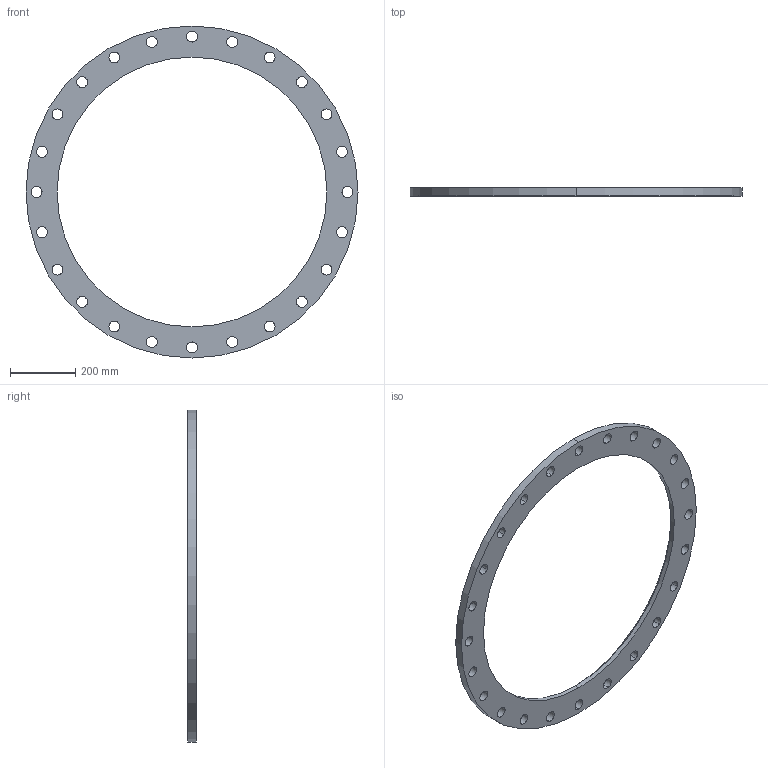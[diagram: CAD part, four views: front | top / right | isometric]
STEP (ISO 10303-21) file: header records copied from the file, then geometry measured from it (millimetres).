
FILE_DESCRIPTION (( 'STEP AP203' ), '1' );
FILE_NAME ('3D_R185_PN10_DN800_176641290_176642290.STEP', '2024-07-10T07:28:39', ( '' ), ( '' ), 'SwSTEP 2.0', 'SolidWorks 2024', '' );
FILE_SCHEMA (( 'CONFIG_CONTROL_DESIGN' ));
Length unit declared in the file: millimetre
Products named in the file (1): 3D_R185_PN10_DN800_176641290_176642290
Bounding box: 1015 x 25 x 1015 mm (x, y, z)
Volume: 6207114.8 mm3; surface area: 699014.7 mm2
Topology: 1 solids, 1 shells, 56 faces, 160 edges, 106 vertices
Faces by surface type: cylinder 52, cone 2, plane 2
Entity records: 2071 total; most frequent: DIRECTION 380, CARTESIAN_POINT 323, ORIENTED_EDGE 320, AXIS2_PLACEMENT_3D 163, EDGE_CURVE 160, VERTEX_POINT 106, CIRCLE 106, EDGE_LOOP 106
